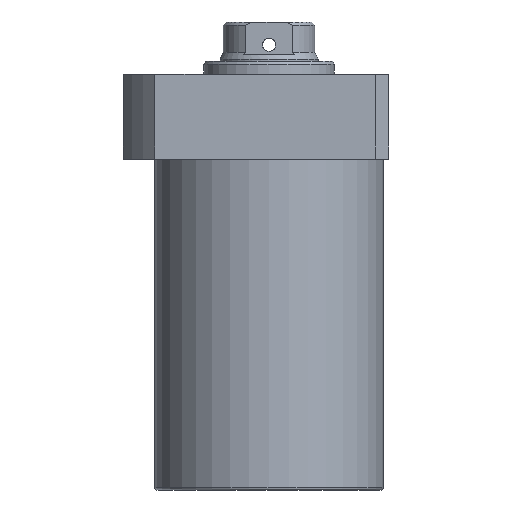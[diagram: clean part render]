
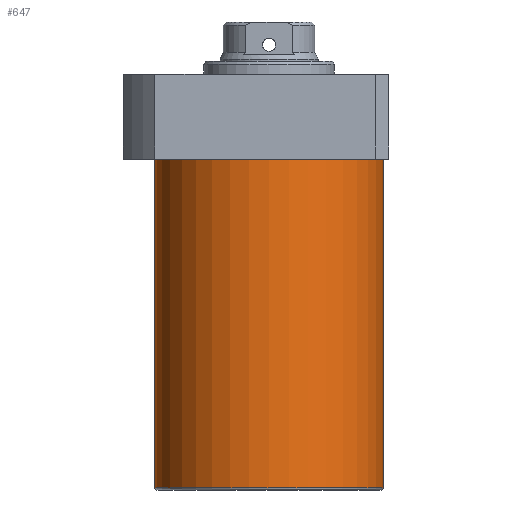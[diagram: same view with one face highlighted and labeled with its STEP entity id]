
A CAD part, front view. The second image highlights one B-rep face of the part: STEP entity #647.
In plain terms, the highlighted cylindrical face has radius 52.5 mm (diameter 105 mm), a partial arc.
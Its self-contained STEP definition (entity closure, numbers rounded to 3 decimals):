
#91 = DIRECTION ( 'NONE',  ( 1., 0., 0. ) ) ;
#159 = CIRCLE ( 'NONE', #2223, 52.5 ) ;
#164 = VECTOR ( 'NONE', #1536, 1000. ) ;
#215 = LINE ( 'NONE', #2016, #401 ) ;
#235 = EDGE_LOOP ( 'NONE', ( #1368, #866, #1561, #374 ) ) ;
#296 = CIRCLE ( 'NONE', #1798, 52.5 ) ;
#315 = CARTESIAN_POINT ( 'NONE',  ( -52.5, 0., -171.5 ) ) ;
#374 = ORIENTED_EDGE ( 'NONE', *, *, #690, .T. ) ;
#401 = VECTOR ( 'NONE', #830, 1000. ) ;
#422 = DIRECTION ( 'NONE',  ( -1., 0., 0. ) ) ;
#448 = VERTEX_POINT ( 'NONE', #1573 ) ;
#458 = FACE_OUTER_BOUND ( 'NONE', #235, .T. ) ;
#573 = DIRECTION ( 'NONE',  ( 0., 0., -1. ) ) ;
#647 = ADVANCED_FACE ( 'NONE', ( #458 ), #1179, .T. ) ;
#690 = EDGE_CURVE ( 'NONE', #2019, #2174, #296, .T. ) ;
#769 = CARTESIAN_POINT ( 'NONE',  ( 0., 0., -170.5 ) ) ;
#830 = DIRECTION ( 'NONE',  ( 0., 0., 1. ) ) ;
#866 = ORIENTED_EDGE ( 'NONE', *, *, #1363, .T. ) ;
#927 = EDGE_CURVE ( 'NONE', #1692, #2174, #1990, .T. ) ;
#1154 = DIRECTION ( 'NONE',  ( 0., 0., 1. ) ) ;
#1172 = CARTESIAN_POINT ( 'NONE',  ( 52.5, 0., -19.5 ) ) ;
#1179 = CYLINDRICAL_SURFACE ( 'NONE', #1389, 52.5 ) ;
#1321 = DIRECTION ( 'NONE',  ( 0., 0., 1. ) ) ;
#1363 = EDGE_CURVE ( 'NONE', #1692, #448, #159, .T. ) ;
#1368 = ORIENTED_EDGE ( 'NONE', *, *, #927, .F. ) ;
#1389 = AXIS2_PLACEMENT_3D ( 'NONE', #2138, #1321, #91 ) ;
#1405 = CARTESIAN_POINT ( 'NONE',  ( -52.5, 0., -170.5 ) ) ;
#1453 = CARTESIAN_POINT ( 'NONE',  ( 0., 0., -19.5 ) ) ;
#1493 = EDGE_CURVE ( 'NONE', #448, #2019, #215, .T. ) ;
#1536 = DIRECTION ( 'NONE',  ( 0., 0., 1. ) ) ;
#1547 = CARTESIAN_POINT ( 'NONE',  ( -52.5, 0., -19.5 ) ) ;
#1561 = ORIENTED_EDGE ( 'NONE', *, *, #1493, .T. ) ;
#1573 = CARTESIAN_POINT ( 'NONE',  ( 52.5, 0., -170.5 ) ) ;
#1643 = DIRECTION ( 'NONE',  ( 1., 0., 0. ) ) ;
#1692 = VERTEX_POINT ( 'NONE', #1405 ) ;
#1798 = AXIS2_PLACEMENT_3D ( 'NONE', #1453, #573, #1643 ) ;
#1990 = LINE ( 'NONE', #315, #164 ) ;
#2016 = CARTESIAN_POINT ( 'NONE',  ( 52.5, 0., -171.5 ) ) ;
#2019 = VERTEX_POINT ( 'NONE', #1172 ) ;
#2138 = CARTESIAN_POINT ( 'NONE',  ( 0., 0., -171.5 ) ) ;
#2174 = VERTEX_POINT ( 'NONE', #1547 ) ;
#2223 = AXIS2_PLACEMENT_3D ( 'NONE', #769, #1154, #422 ) ;
